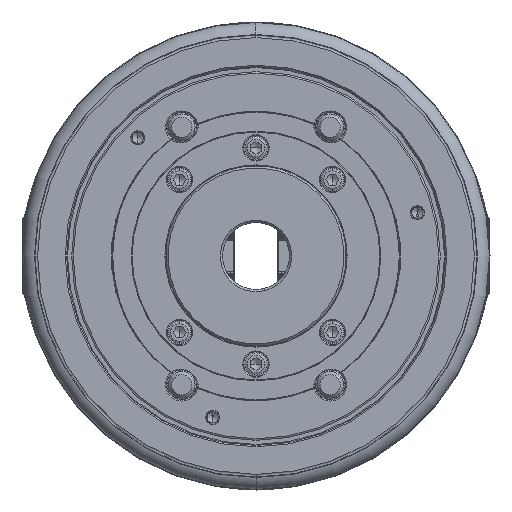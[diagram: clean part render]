
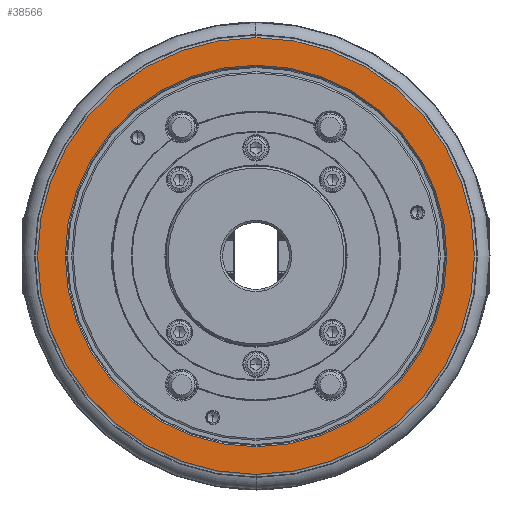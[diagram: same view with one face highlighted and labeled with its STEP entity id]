
A CAD part, left-side view. The second image highlights one B-rep face of the part: STEP entity #38566.
In plain terms, the highlighted planar face has unit normal (-1, 0, 0).
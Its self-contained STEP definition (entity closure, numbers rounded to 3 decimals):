
#418 = CIRCLE ( 'NONE', #32922, 98. ) ;
#1321 = CARTESIAN_POINT ( 'NONE',  ( -91., 0., 0. ) ) ;
#11430 = AXIS2_PLACEMENT_3D ( 'NONE', #40452, #40043, #38852 ) ;
#16095 = VERTEX_POINT ( 'NONE', #29269 ) ;
#16389 = PLANE ( 'NONE',  #80100 ) ;
#20473 = DIRECTION ( 'NONE',  ( 0., 0., -1. ) ) ;
#23265 = CARTESIAN_POINT ( 'NONE',  ( -91., 0., -85.6 ) ) ;
#25239 = CARTESIAN_POINT ( 'NONE',  ( -91., 0., 0. ) ) ;
#25641 = DIRECTION ( 'NONE',  ( 1., 0., 0. ) ) ;
#25929 = VERTEX_POINT ( 'NONE', #37391 ) ;
#26882 = ORIENTED_EDGE ( 'NONE', *, *, #31967, .F. ) ;
#27649 = CARTESIAN_POINT ( 'NONE',  ( -91., 0., -85.6 ) ) ;
#29269 = CARTESIAN_POINT ( 'NONE',  ( -91., 0., 98. ) ) ;
#30429 = EDGE_LOOP ( 'NONE', ( #43069, #66649 ) ) ;
#30894 = EDGE_CURVE ( 'NONE', #46133, #16095, #418, .T. ) ;
#31967 = EDGE_CURVE ( 'NONE', #16095, #46133, #48779, .T. ) ;
#32922 = AXIS2_PLACEMENT_3D ( 'NONE', #57918, #76643, #20473 ) ;
#36205 = CIRCLE ( 'NONE', #11430, 85.6 ) ;
#37173 = CARTESIAN_POINT ( 'NONE',  ( -91., 0., -98. ) ) ;
#37391 = CARTESIAN_POINT ( 'NONE',  ( -91., 0., 85.6 ) ) ;
#38382 = DIRECTION ( 'NONE',  ( 1., 0., 0. ) ) ;
#38566 = ADVANCED_FACE ( 'NONE', ( #77836, #78636 ), #16389, .T. ) ;
#38852 = DIRECTION ( 'NONE',  ( 0., 0., -1. ) ) ;
#40043 = DIRECTION ( 'NONE',  ( 1., 0., 0. ) ) ;
#40362 = CIRCLE ( 'NONE', #44278, 85.6 ) ;
#40452 = CARTESIAN_POINT ( 'NONE',  ( -91., 0., 0. ) ) ;
#41193 = DIRECTION ( 'NONE',  ( -1., 0., 0. ) ) ;
#42421 = DIRECTION ( 'NONE',  ( 0., 0., 1. ) ) ;
#43069 = ORIENTED_EDGE ( 'NONE', *, *, #53503, .T. ) ;
#43574 = AXIS2_PLACEMENT_3D ( 'NONE', #25239, #25641, #57782 ) ;
#44278 = AXIS2_PLACEMENT_3D ( 'NONE', #1321, #38382, #63196 ) ;
#46133 = VERTEX_POINT ( 'NONE', #37173 ) ;
#48779 = CIRCLE ( 'NONE', #43574, 98. ) ;
#53491 = ORIENTED_EDGE ( 'NONE', *, *, #30894, .F. ) ;
#53503 = EDGE_CURVE ( 'NONE', #25929, #68361, #36205, .T. ) ;
#57782 = DIRECTION ( 'NONE',  ( 0., 0., -1. ) ) ;
#57918 = CARTESIAN_POINT ( 'NONE',  ( -91., 0., 0. ) ) ;
#63196 = DIRECTION ( 'NONE',  ( 0., 0., -1. ) ) ;
#66649 = ORIENTED_EDGE ( 'NONE', *, *, #68008, .T. ) ;
#68008 = EDGE_CURVE ( 'NONE', #68361, #25929, #40362, .T. ) ;
#68361 = VERTEX_POINT ( 'NONE', #27649 ) ;
#76643 = DIRECTION ( 'NONE',  ( 1., 0., 0. ) ) ;
#76987 = EDGE_LOOP ( 'NONE', ( #53491, #26882 ) ) ;
#77836 = FACE_OUTER_BOUND ( 'NONE', #76987, .T. ) ;
#78636 = FACE_BOUND ( 'NONE', #30429, .T. ) ;
#80100 = AXIS2_PLACEMENT_3D ( 'NONE', #23265, #41193, #42421 ) ;
